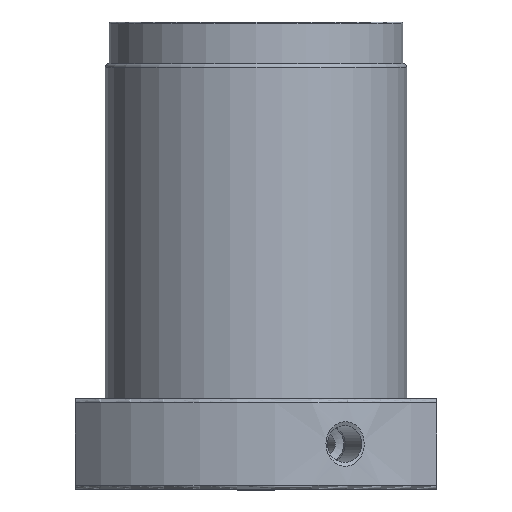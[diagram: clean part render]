
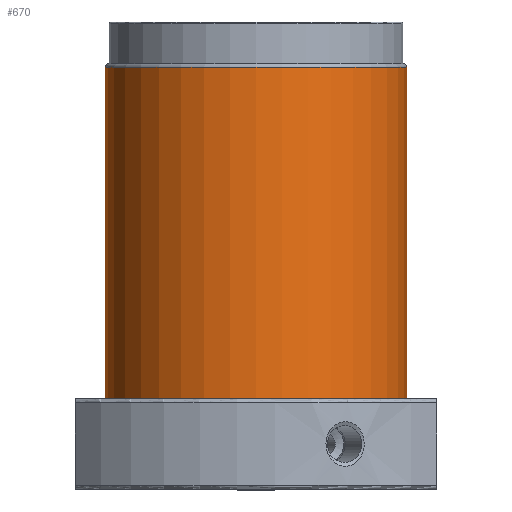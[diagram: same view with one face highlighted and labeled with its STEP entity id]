
A CAD part, top view. The second image highlights one B-rep face of the part: STEP entity #670.
In plain terms, the highlighted cylindrical face has radius 20 mm (diameter 40 mm), a full revolution.
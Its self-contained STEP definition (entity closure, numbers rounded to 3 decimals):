
#79=ORIENTED_EDGE('',*,*,#187,.T.);
#80=ORIENTED_EDGE('',*,*,#188,.F.);
#187=EDGE_CURVE('',#241,#241,#283,.F.);
#188=EDGE_CURVE('',#242,#242,#284,.F.);
#241=VERTEX_POINT('',#999);
#242=VERTEX_POINT('',#1001);
#283=CIRCLE('',#712,20.);
#284=CIRCLE('',#713,20.);
#319=EDGE_LOOP('',(#79));
#320=EDGE_LOOP('',(#80));
#383=FACE_BOUND('',#319,.T.);
#384=FACE_BOUND('',#320,.T.);
#441=CYLINDRICAL_SURFACE('',#711,20.);
#670=ADVANCED_FACE('',(#383,#384),#441,.T.);
#711=AXIS2_PLACEMENT_3D('',#997,#790,#791);
#712=AXIS2_PLACEMENT_3D('',#998,#792,#793);
#713=AXIS2_PLACEMENT_3D('',#1000,#794,#795);
#790=DIRECTION('',(0.,-1.,0.));
#791=DIRECTION('',(0.,0.,-1.));
#792=DIRECTION('',(0.,1.,0.));
#793=DIRECTION('',(0.,0.,1.));
#794=DIRECTION('',(0.,1.,0.));
#795=DIRECTION('',(0.,0.,1.));
#997=CARTESIAN_POINT('',(0.,62.,0.));
#998=CARTESIAN_POINT('',(0.,56.,0.));
#999=CARTESIAN_POINT('',(0.,56.,20.));
#1000=CARTESIAN_POINT('',(0.,12.,0.));
#1001=CARTESIAN_POINT('',(0.,12.,20.));
